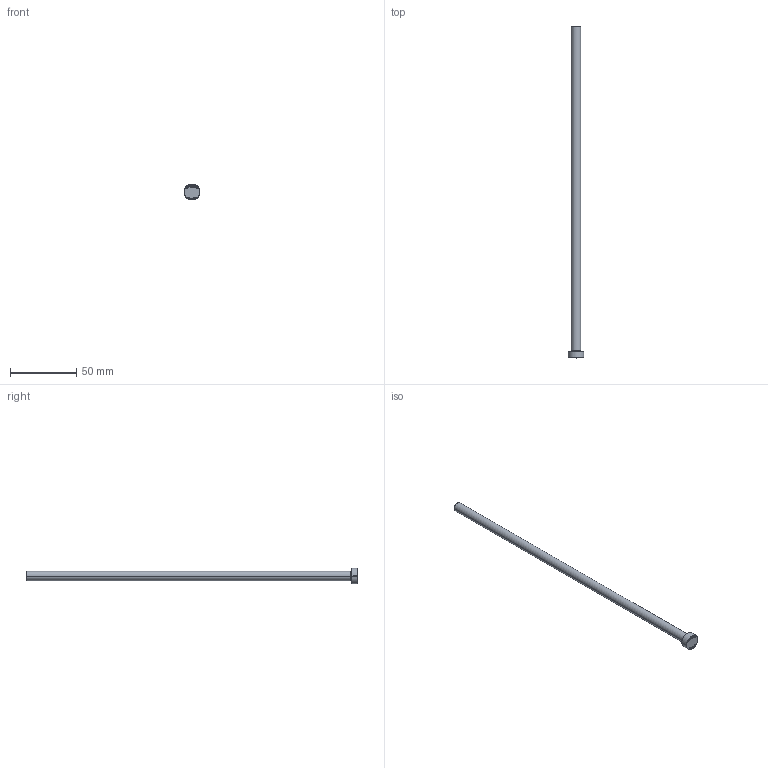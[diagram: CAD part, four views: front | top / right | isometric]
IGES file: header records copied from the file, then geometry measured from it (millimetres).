
Start section: SolidWorks IGES file using analytic representation for surfaces
Global section: file name: C:\Users\User\Downloads\Matripeça 31-08 tar\PB - PINO EXTRATOR TIPO _B_ (CATÁLOGO)\PB07,0\PB07,0250.IGS; native system: SolidWorks 2024; preprocessor: SolidWorks 2024; author: User; date: 260901.144800; units: millimetre
Bounding box: 12 x 250 x 12 mm (x, y, z)
Surface area: 5807.4 mm2 (no closed solid volume)
Topology: 0 solids, 0 shells, 398 faces, 3708 edges, 3708 vertices
Faces by surface type: bspline 384, revolution 14
